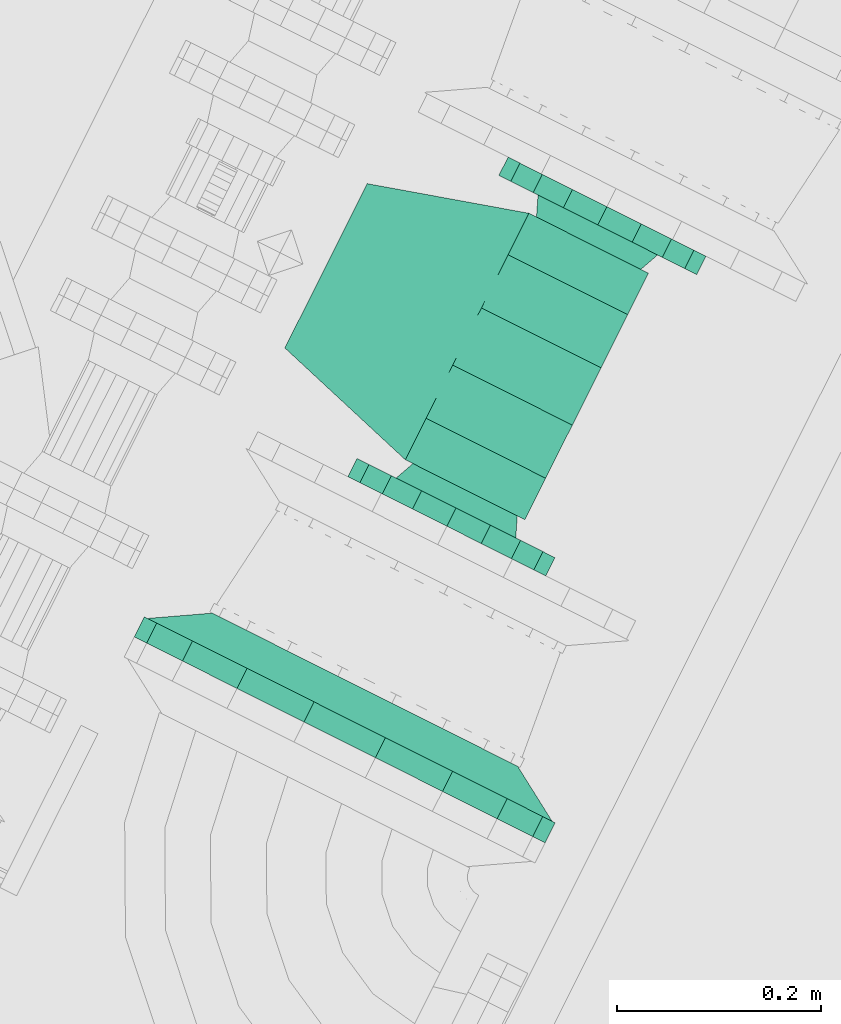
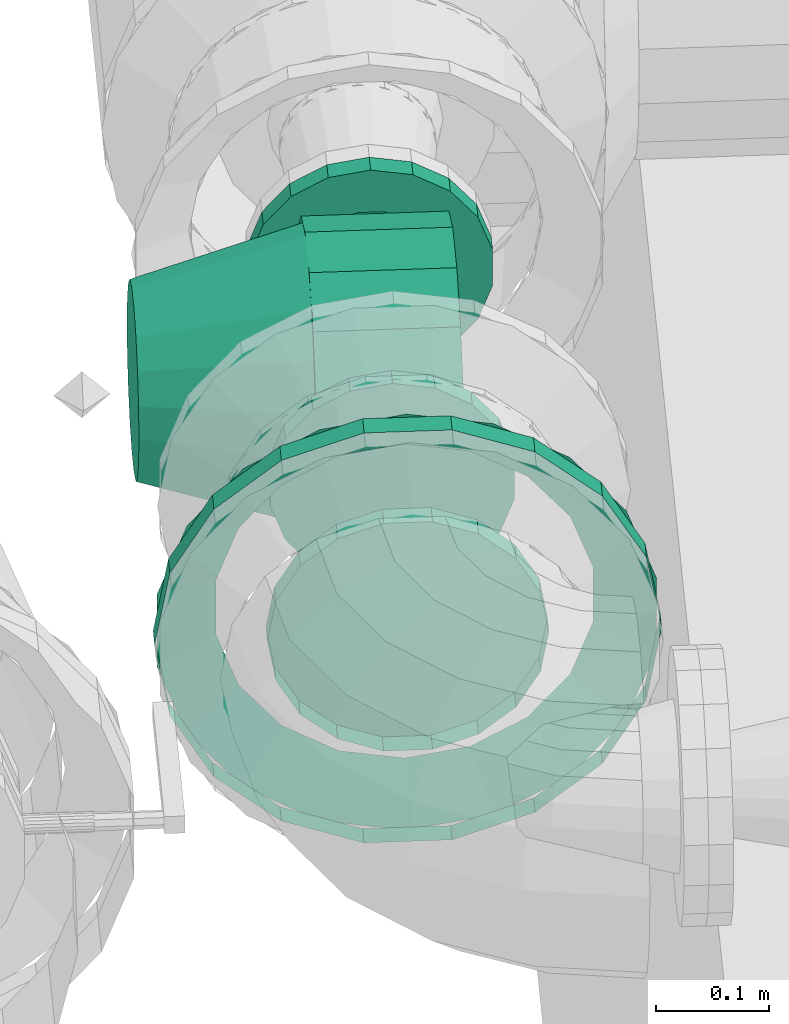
# One storey, part 73 of 206: 1 flow fitting, 1 flow moving device.
"""IFC2X3 building model written with IfcOpenShell, lengths in metres."""

from ifc_helpers import new_model, si_unit, derived_unit, direction, frame, origin, place, context, subcontext, project, spatial, face_set, surface_model, source, transform, mapped, material, type_object, type_shapes, element, save


model = new_model("IFC2X3")

# Units and contexts
model_context = context("Model", 3, precision=5.2338327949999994e-05, world=origin(), true_north=direction((0.0, 1.0)))
body_context = subcontext(model_context, "Body", "Model", "MODEL_VIEW")
ifc_project = project(units=[si_unit("LENGTHUNIT", "METRE"), si_unit("AREAUNIT", "SQUARE_METRE"), si_unit("VOLUMEUNIT", "CUBIC_METRE"), si_unit("MASSUNIT", "GRAM", prefix="KILO"), si_unit("PLANEANGLEUNIT", "RADIAN"), derived_unit("THERMALTRANSMITTANCEUNIT", [(si_unit("MASSUNIT", "GRAM", prefix="KILO"), 1), (si_unit("THERMODYNAMICTEMPERATUREUNIT", "KELVIN"), -1), (si_unit("TIMEUNIT", "SECOND"), -3)])], contexts=[model_context])

# Site, building, storey
site_placement = place(None, frame((0.0, 0.0, 0.0), z_axis=(0.0, 0.0, 1.0), x_axis=(0.8939966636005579, -0.4480736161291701, 0.0)))
site = spatial("IfcSite", under=ifc_project, at=site_placement, Name="Default", CompositionType="ELEMENT")
building_placement = place(site_placement, origin())
building = spatial("IfcBuilding", under=site, at=building_placement, CompositionType="ELEMENT")
storey_placement = place(building_placement, origin())
storey = spatial("IfcBuildingStorey", under=building, at=storey_placement, Name="Erdgeschoss", CompositionType="ELEMENT", Elevation=0.0)

# Flow fitting
ifc_material = material(Name="IfcSurfaceStyle #1741")
distribution_element_type_1 = type_object("IfcDistributionElementType", Name="Flansch 340880:Flansch 340880", material=ifc_material)
shared_shape_1 = source(origin(), body_context, "Body", "SurfaceModel", [
    surface_model("IfcFaceBasedSurfaceModel", [(25.314855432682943, 5.640961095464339, 2.3539999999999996), (25.322393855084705, 5.640961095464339, 2.3967525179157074), (25.322393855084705, 5.662961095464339, 2.3967525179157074), (25.314855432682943, 5.662961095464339, 2.3539999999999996), (25.344099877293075, 5.640961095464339, 2.434348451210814), (25.344099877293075, 5.662961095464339, 2.434348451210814), (25.377355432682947, 5.640961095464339, 2.462253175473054), (25.377355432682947, 5.662961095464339, 2.462253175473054), (25.418149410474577, 5.640961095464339, 2.4771009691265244), (25.418149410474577, 5.662961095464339, 2.4771009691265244), (25.461561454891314, 5.640961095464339, 2.4771009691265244), (25.461561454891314, 5.662961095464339, 2.4771009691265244), (25.502355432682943, 5.640961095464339, 2.4622531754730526), (25.502355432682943, 5.662961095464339, 2.4622531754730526), (25.535610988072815, 5.640961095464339, 2.4343484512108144), (25.535610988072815, 5.662961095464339, 2.4343484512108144), (25.557317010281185, 5.640961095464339, 2.396752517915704), (25.557317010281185, 5.662961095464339, 2.396752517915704), (25.564855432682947, 5.640961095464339, 2.3539999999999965), (25.564855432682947, 5.662961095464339, 2.3539999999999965), (25.557317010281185, 5.640961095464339, 2.3112474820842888), (25.557317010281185, 5.662961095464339, 2.3112474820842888), (25.535610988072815, 5.640961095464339, 2.273651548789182), (25.535610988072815, 5.662961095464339, 2.273651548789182), (25.502355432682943, 5.640961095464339, 2.2457468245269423), (25.502355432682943, 5.662961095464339, 2.2457468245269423), (25.461561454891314, 5.640961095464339, 2.230899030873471), (25.461561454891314, 5.662961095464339, 2.230899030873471), (25.418149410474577, 5.640961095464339, 2.2308990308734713), (25.418149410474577, 5.662961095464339, 2.2308990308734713), (25.377355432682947, 5.640961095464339, 2.2457468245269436), (25.377355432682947, 5.662961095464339, 2.2457468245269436), (25.344099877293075, 5.640961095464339, 2.2736515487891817), (25.344099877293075, 5.662961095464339, 2.2736515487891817), (25.322393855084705, 5.640961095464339, 2.311247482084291), (25.322393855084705, 5.662961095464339, 2.311247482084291), (25.439855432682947, 5.662961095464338, 2.353999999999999), (25.439855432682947, 5.662961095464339, 2.4319999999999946), (25.46653300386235, 5.662961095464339, 2.4272960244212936), (25.463745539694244, 5.695961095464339, 2.419637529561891), (25.43985543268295, 5.69596109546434, 2.4238499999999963), (25.489992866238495, 5.662961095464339, 2.4137514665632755), (25.484754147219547, 5.695961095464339, 2.407508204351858), (25.507405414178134, 5.662961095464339, 2.392999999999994), (25.500347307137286, 5.695961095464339, 2.3889249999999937), (25.516670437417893, 5.662961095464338, 2.367544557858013), (25.50864425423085, 5.695961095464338, 2.3661293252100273), (25.516670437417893, 5.662961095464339, 2.340455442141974), (25.50864425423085, 5.695961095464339, 2.3418706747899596), (25.507405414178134, 5.662961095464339, 2.314999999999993), (25.500347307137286, 5.695961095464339, 2.3190749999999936), (25.48999286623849, 5.662961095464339, 2.2942485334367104), (25.484754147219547, 5.695961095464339, 2.300491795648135), (25.466533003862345, 5.662961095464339, 2.280703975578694), (25.46374553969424, 5.695961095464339, 2.2883624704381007), (25.439855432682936, 5.662961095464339, 2.2759999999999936), (25.43985543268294, 5.695961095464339, 2.2841499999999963), (25.41317786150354, 5.662961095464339, 2.2807039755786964), (25.415965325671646, 5.695961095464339, 2.288362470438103), (25.38971799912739, 5.662961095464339, 2.294248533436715), (25.39495671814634, 5.695961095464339, 2.300491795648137), (25.372305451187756, 5.662961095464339, 2.3149999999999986), (25.379363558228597, 5.695961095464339, 2.319074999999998), (25.36304042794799, 5.662961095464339, 2.3404554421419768), (25.37106661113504, 5.695961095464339, 2.3418706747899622), (25.36304042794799, 5.662961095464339, 2.367544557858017), (25.371066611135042, 5.695961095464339, 2.3661293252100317), (25.372305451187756, 5.662961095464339, 2.392999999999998), (25.379363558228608, 5.695961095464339, 2.388924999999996), (25.3897179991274, 5.662961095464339, 2.4137514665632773), (25.394956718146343, 5.695961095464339, 2.4075082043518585), (25.41317786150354, 5.662961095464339, 2.4272960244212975), (25.41596532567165, 5.695961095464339, 2.4196375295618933), (25.214855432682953, 5.640961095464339, 2.354000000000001), (25.22842459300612, 5.640961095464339, 2.4309545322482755), (25.22842459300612, 5.662961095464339, 2.4309545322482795), (25.214855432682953, 5.662961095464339, 2.354000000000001), (25.26749543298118, 5.640961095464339, 2.49862721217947), (25.26749543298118, 5.662961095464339, 2.498627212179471), (25.327355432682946, 5.640961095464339, 2.548855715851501), (25.327355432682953, 5.662961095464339, 2.5488557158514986), (25.400784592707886, 5.640961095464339, 2.5755817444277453), (25.40078459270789, 5.662961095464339, 2.575581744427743), (25.478926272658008, 5.640961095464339, 2.5755817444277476), (25.47892627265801, 5.662961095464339, 2.5755817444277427), (25.552355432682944, 5.640961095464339, 2.5488557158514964), (25.552355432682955, 5.662961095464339, 2.548855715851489), (25.612215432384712, 5.640961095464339, 2.498627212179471), (25.61221543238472, 5.662961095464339, 2.498627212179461), (25.651286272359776, 5.640961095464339, 2.4309545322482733), (25.65128627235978, 5.662961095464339, 2.4309545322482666), (25.664855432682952, 5.640961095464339, 2.353999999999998), (25.664855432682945, 5.662961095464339, 2.353999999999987), (25.651286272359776, 5.640961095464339, 2.277045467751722), (25.65128627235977, 5.662961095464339, 2.2770454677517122), (25.612215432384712, 5.640961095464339, 2.209372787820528), (25.61221543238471, 5.662961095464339, 2.209372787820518), (25.552355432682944, 5.640961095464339, 2.159144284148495), (25.552355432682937, 5.662961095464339, 2.159144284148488), (25.478926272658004, 5.640961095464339, 2.132418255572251), (25.478926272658, 5.662961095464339, 2.132418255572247), (25.400784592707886, 5.640961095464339, 2.13241825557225), (25.40078459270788, 5.662961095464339, 2.1324182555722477), (25.327355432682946, 5.640961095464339, 2.1591442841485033), (25.327355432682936, 5.662961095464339, 2.1591442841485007), (25.267495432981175, 5.640961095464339, 2.2093727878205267), (25.26749543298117, 5.662961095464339, 2.209372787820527), (25.22842459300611, 5.640961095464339, 2.2770454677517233), (25.22842459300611, 5.662961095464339, 2.277045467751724), (25.439855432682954, 5.662961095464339, 2.578999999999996), (25.516809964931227, 5.662961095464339, 2.5654308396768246), (25.497947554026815, 5.695961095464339, 2.5136067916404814), (25.43985543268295, 5.695961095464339, 2.5238499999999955), (25.584482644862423, 5.662961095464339, 2.52635999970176), (25.549032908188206, 5.695961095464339, 2.484112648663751), (25.634711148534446, 5.662961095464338, 2.466499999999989), (25.586949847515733, 5.695961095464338, 2.438924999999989), (25.66143717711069, 5.662961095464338, 2.393070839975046), (25.607125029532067, 5.695961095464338, 2.383494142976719), (25.66143717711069, 5.662961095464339, 2.314929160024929), (25.607125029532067, 5.695961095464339, 2.3245058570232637), (25.63471114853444, 5.662961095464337, 2.2414999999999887), (25.58694984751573, 5.6959610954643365, 2.269074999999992), (25.58448264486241, 5.662961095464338, 2.1816400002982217), (25.5490329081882, 5.695961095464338, 2.2238873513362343), (25.516809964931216, 5.662961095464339, 2.1425691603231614), (25.497947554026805, 5.695961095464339, 2.1943932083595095), (25.439855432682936, 5.662961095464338, 2.128999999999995), (25.439855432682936, 5.695961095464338, 2.184149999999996), (25.362900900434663, 5.662961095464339, 2.142569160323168), (25.38176331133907, 5.695961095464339, 2.1943932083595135), (25.295228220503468, 5.662961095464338, 2.181640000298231), (25.330677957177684, 5.695961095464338, 2.2238873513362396), (25.244999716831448, 5.662961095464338, 2.241500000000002), (25.292761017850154, 5.695961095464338, 2.2690750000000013), (25.218273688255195, 5.66296109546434, 2.314929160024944), (25.272585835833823, 5.69596109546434, 2.3245058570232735), (25.218273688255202, 5.662961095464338, 2.393070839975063), (25.272585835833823, 5.695961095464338, 2.38349414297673), (25.24499971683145, 5.662961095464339, 2.4665000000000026), (25.292761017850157, 5.695961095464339, 2.4389249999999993), (25.295228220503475, 5.662961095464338, 2.5263599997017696), (25.33067795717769, 5.695961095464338, 2.4841126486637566), (25.362900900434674, 5.662961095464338, 2.565430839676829), (25.381763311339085, 5.695961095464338, 2.5136067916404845)], [face_set([[[0, 1, 2, 3]], [[1, 4, 5, 2]], [[4, 6, 7, 5]], [[6, 8, 9, 7]], [[8, 10, 11, 9]], [[10, 12, 13, 11]], [[12, 14, 15, 13]], [[14, 16, 17, 15]], [[16, 18, 19, 17]], [[18, 20, 21, 19]], [[20, 22, 23, 21]], [[22, 24, 25, 23]], [[24, 26, 27, 25]], [[26, 28, 29, 27]], [[28, 30, 31, 29]], [[30, 32, 33, 31]], [[32, 34, 35, 33]], [[34, 0, 3, 35]], [[36, 35, 3]], [[36, 33, 35]], [[36, 31, 33]], [[36, 29, 31]], [[36, 27, 29]], [[36, 25, 27]], [[36, 23, 25]], [[36, 21, 23]], [[36, 19, 21]], [[36, 17, 19]], [[36, 15, 17]], [[36, 13, 15]], [[36, 11, 13]], [[36, 9, 11]], [[36, 7, 9]], [[36, 5, 7]], [[36, 2, 5]], [[36, 3, 2]], [[37, 38, 39, 40]], [[38, 41, 42, 39]], [[41, 43, 44, 42]], [[43, 45, 46, 44]], [[45, 47, 48, 46]], [[47, 49, 50, 48]], [[49, 51, 52, 50]], [[51, 53, 54, 52]], [[53, 55, 56, 54]], [[55, 57, 58, 56]], [[57, 59, 60, 58]], [[59, 61, 62, 60]], [[61, 63, 64, 62]], [[63, 65, 66, 64]], [[65, 67, 68, 66]], [[67, 69, 70, 68]], [[69, 71, 72, 70]], [[71, 37, 40, 72]], [[73, 74, 75, 76]], [[74, 77, 78, 75]], [[77, 79, 80, 78]], [[79, 81, 82, 80]], [[81, 83, 84, 82]], [[83, 85, 86, 84]], [[85, 87, 88, 86]], [[87, 89, 90, 88]], [[89, 91, 92, 90]], [[91, 93, 94, 92]], [[93, 95, 96, 94]], [[95, 97, 98, 96]], [[97, 99, 100, 98]], [[99, 101, 102, 100]], [[101, 103, 104, 102]], [[103, 105, 106, 104]], [[105, 107, 108, 106]], [[107, 73, 76, 108]], [[109, 110, 111, 112]], [[110, 113, 114, 111]], [[113, 115, 116, 114]], [[115, 117, 118, 116]], [[117, 119, 120, 118]], [[119, 121, 122, 120]], [[121, 123, 124, 122]], [[123, 125, 126, 124]], [[125, 127, 128, 126]], [[127, 129, 130, 128]], [[129, 131, 132, 130]], [[131, 133, 134, 132]], [[133, 135, 136, 134]], [[135, 137, 138, 136]], [[137, 139, 140, 138]], [[139, 141, 142, 140]], [[141, 143, 144, 142]], [[143, 109, 112, 144]]])]),
])
type_shapes(distribution_element_type_1, [shared_shape_1])
flow_fitting_placement = place(storey_placement, origin())
element("IfcFlowFitting", 1, at=flow_fitting_placement, inside=storey, type_object=distribution_element_type_1, material=ifc_material, Name="Flansch", ObjectType="Flansch", context=body_context, shape_type="MappedRepresentation", body=[
    mapped(shared_shape_1, transform((0.0, 0.0, 0.0), scale=1.0)),
])

# Flow moving device
distribution_element_type_2 = type_object("IfcDistributionElementType", Name="Inline-Pumpe 341037:Inline-Pumpe 341037", material=ifc_material)
shared_shape_2 = source(origin(), body_context, "Body", "SurfaceModel", [
    surface_model("IfcFaceBasedSurfaceModel", [(25.43985543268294, 6.22496109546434, 2.4639999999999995), (25.402233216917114, 6.22496109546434, 2.457366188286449), (25.402233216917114, 6.2049610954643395, 2.457366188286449), (25.43985543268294, 6.20496109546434, 2.4640000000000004), (25.369148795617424, 6.22496109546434, 2.4382648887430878), (25.369148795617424, 6.2049610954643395, 2.4382648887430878), (25.344592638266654, 6.22496109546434, 2.4089999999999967), (25.344592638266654, 6.2049610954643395, 2.4089999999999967), (25.3315265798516, 6.22496109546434, 2.373101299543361), (25.3315265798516, 6.2049610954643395, 2.373101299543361), (25.3315265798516, 6.22496109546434, 2.3348987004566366), (25.3315265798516, 6.2049610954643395, 2.3348987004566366), (25.344592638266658, 6.22496109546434, 2.298999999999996), (25.344592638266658, 6.2049610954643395, 2.298999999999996), (25.369148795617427, 6.22496109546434, 2.2697351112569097), (25.369148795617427, 6.2049610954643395, 2.2697351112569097), (25.40223321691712, 6.22496109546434, 2.2506338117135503), (25.40223321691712, 6.2049610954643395, 2.2506338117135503), (25.43985543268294, 6.22496109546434, 2.243999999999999), (25.43985543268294, 6.2049610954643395, 2.243999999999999), (25.477477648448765, 6.22496109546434, 2.25063381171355), (25.477477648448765, 6.2049610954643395, 2.25063381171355), (25.510562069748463, 6.22496109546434, 2.269735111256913), (25.510562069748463, 6.2049610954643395, 2.269735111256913), (25.535118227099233, 6.22496109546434, 2.2989999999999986), (25.535118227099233, 6.2049610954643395, 2.2989999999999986), (25.54818428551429, 6.22496109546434, 2.3348987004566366), (25.54818428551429, 6.2049610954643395, 2.3348987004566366), (25.54818428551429, 6.22496109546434, 2.373101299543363), (25.54818428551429, 6.2049610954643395, 2.373101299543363), (25.535118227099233, 6.22496109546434, 2.4090000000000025), (25.535118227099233, 6.2049610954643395, 2.4090000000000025), (25.510562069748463, 6.22496109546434, 2.43826488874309), (25.510562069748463, 6.2049610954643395, 2.43826488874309), (25.477477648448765, 6.22496109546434, 2.4573661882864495), (25.477477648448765, 6.2049610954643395, 2.4573661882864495), (25.43985543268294, 6.2049610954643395, 2.354), (25.43985543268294, 6.22496109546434, 2.354), (25.505355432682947, 6.2049610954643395, 2.354), (25.50140529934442, 6.2049610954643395, 2.376402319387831), (25.49355886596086, 6.184961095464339, 2.3735464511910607), (25.49700543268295, 6.184961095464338, 2.3539999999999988), (25.490031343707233, 6.204961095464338, 2.3961025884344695), (25.48363487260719, 6.184961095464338, 2.390735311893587), (25.472605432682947, 6.2049610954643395, 2.41072466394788), (25.468430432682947, 6.184961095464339, 2.4034933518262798), (25.451229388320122, 6.2049610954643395, 2.4185049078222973), (25.44977942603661, 6.184961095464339, 2.4102817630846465), (25.428481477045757, 6.2049610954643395, 2.418504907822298), (25.42993143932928, 6.184961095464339, 2.410281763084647), (25.407105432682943, 6.2049610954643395, 2.410724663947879), (25.411280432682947, 6.184961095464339, 2.4034933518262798), (25.389679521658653, 6.2049610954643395, 2.3961025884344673), (25.396075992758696, 6.184961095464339, 2.3907353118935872), (25.378305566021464, 6.2049610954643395, 2.3764023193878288), (25.38615199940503, 6.184961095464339, 2.3735464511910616), (25.374355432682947, 6.20496109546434, 2.3539999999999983), (25.38270543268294, 6.184961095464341, 2.353999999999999), (25.37830556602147, 6.204961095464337, 2.331597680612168), (25.38615199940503, 6.184961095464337, 2.3344535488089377), (25.389679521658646, 6.2049610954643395, 2.31189741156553), (25.396075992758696, 6.184961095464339, 2.317264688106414), (25.407105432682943, 6.2049610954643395, 2.2972753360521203), (25.41128043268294, 6.184961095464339, 2.304506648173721), (25.428481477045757, 6.2049610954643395, 2.2894950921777), (25.429931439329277, 6.184961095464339, 2.2977182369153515), (25.451229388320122, 6.2049610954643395, 2.2894950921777), (25.449779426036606, 6.184961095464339, 2.2977182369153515), (25.472605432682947, 6.2049610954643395, 2.2972753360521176), (25.468430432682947, 6.184961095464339, 2.304506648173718), (25.490031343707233, 6.2049610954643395, 2.311897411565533), (25.48363487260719, 6.184961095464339, 2.317264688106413), (25.501405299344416, 6.20496109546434, 2.331597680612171), (25.49355886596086, 6.184961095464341, 2.3344535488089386), (25.49700543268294, 5.914961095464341, 2.3539999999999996), (25.493558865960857, 5.914961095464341, 2.373546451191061), (25.501405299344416, 5.894961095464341, 2.376402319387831), (25.505355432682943, 5.894961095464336, 2.353999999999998), (25.483634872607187, 5.9149610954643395, 2.390735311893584), (25.490031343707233, 5.894961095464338, 2.3961025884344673), (25.46843043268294, 5.9149610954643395, 2.4034933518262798), (25.472605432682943, 5.894961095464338, 2.4107246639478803), (25.449779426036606, 5.9149610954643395, 2.410281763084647), (25.451229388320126, 5.894961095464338, 2.4185049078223), (25.429931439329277, 5.9149610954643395, 2.410281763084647), (25.428481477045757, 5.894961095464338, 2.4185049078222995), (25.411280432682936, 5.9149610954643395, 2.4034933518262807), (25.407105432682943, 5.894961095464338, 2.410724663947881), (25.396075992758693, 5.91496109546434, 2.3907353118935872), (25.389679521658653, 5.894961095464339, 2.39610258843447), (25.386151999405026, 5.9149610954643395, 2.373546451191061), (25.37830556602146, 5.894961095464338, 2.3764023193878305), (25.38270543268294, 5.9149610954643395, 2.3540000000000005), (25.374355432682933, 5.894961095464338, 2.354), (25.386151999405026, 5.914961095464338, 2.334453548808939), (25.37830556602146, 5.894961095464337, 2.33159768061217), (25.396075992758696, 5.9149610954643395, 2.3172646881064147), (25.389679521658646, 5.894961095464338, 2.311897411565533), (25.411280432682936, 5.91496109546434, 2.3045066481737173), (25.407105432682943, 5.894961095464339, 2.297275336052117), (25.42993143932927, 5.9149610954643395, 2.297718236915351), (25.428481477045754, 5.894961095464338, 2.2894950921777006), (25.449779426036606, 5.9149610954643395, 2.2977182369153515), (25.451229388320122, 5.894961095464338, 2.2894950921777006), (25.46843043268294, 5.9149610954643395, 2.3045066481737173), (25.472605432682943, 5.894961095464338, 2.297275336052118), (25.483634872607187, 5.9149610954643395, 2.317264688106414), (25.490031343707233, 5.894961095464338, 2.311897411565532), (25.49355886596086, 5.914961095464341, 2.3344535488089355), (25.501405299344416, 5.894961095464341, 2.331597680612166), (25.43985543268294, 5.894961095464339, 2.4640000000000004), (25.40223321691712, 5.894961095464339, 2.457366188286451), (25.40223321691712, 5.874961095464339, 2.457366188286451), (25.43985543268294, 5.874961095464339, 2.4640000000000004), (25.369148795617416, 5.894961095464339, 2.43826488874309), (25.369148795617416, 5.874961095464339, 2.43826488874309), (25.344592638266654, 5.894961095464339, 2.4090000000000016), (25.344592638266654, 5.874961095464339, 2.4090000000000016), (25.331526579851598, 5.894961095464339, 2.3731012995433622), (25.331526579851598, 5.874961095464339, 2.3731012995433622), (25.331526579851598, 5.894961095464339, 2.3348987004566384), (25.331526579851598, 5.874961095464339, 2.3348987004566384), (25.344592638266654, 5.894961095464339, 2.2990000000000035), (25.344592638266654, 5.874961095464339, 2.2990000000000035), (25.369148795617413, 5.894961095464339, 2.2697351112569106), (25.369148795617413, 5.874961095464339, 2.2697351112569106), (25.40223321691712, 5.894961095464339, 2.25063381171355), (25.40223321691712, 5.874961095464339, 2.25063381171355), (25.439855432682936, 5.894961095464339, 2.244), (25.439855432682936, 5.874961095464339, 2.244), (25.47747764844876, 5.894961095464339, 2.25063381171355), (25.47747764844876, 5.874961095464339, 2.25063381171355), (25.51056206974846, 5.894961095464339, 2.269735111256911), (25.51056206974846, 5.874961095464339, 2.269735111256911), (25.535118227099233, 5.894961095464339, 2.2989999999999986), (25.535118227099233, 5.874961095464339, 2.2989999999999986), (25.548184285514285, 5.894961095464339, 2.3348987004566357), (25.548184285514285, 5.874961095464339, 2.3348987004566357), (25.548184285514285, 5.894961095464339, 2.373101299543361), (25.548184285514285, 5.874961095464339, 2.373101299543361), (25.53511822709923, 5.894961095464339, 2.4089999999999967), (25.53511822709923, 5.874961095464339, 2.4089999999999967), (25.510562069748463, 5.894961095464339, 2.438264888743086), (25.510562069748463, 5.874961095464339, 2.438264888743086), (25.477477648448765, 5.894961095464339, 2.457366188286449), (25.477477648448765, 5.874961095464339, 2.457366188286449), (25.43985543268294, 5.894961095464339, 2.354), (25.43985543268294, 5.874961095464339, 2.354), (25.37435543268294, 6.184961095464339, 2.419500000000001), (25.37435543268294, 6.184961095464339, 2.2885000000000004), (25.505355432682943, 6.184961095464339, 2.288499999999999), (25.505355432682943, 6.184961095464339, 2.4194999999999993), (25.37435543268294, 5.9149610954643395, 2.2885000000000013), (25.37435543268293, 5.960383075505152, 2.245269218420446), (25.505355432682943, 5.960383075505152, 2.245269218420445), (25.505355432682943, 5.9149610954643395, 2.2885), (25.374355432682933, 6.018608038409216, 2.2219902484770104), (25.50535543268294, 6.018608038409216, 2.221990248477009), (25.374355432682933, 6.081314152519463, 2.2219902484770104), (25.50535543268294, 6.081314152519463, 2.221990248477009), (25.374355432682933, 6.139539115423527, 2.2452692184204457), (25.50535543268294, 6.139539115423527, 2.2452692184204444), (25.37435543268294, 5.9149610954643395, 2.419500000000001), (25.505355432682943, 5.9149610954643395, 2.4194999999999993), (25.374355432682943, 6.139539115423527, 2.4627307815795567), (25.505355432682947, 6.139539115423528, 2.4627307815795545), (25.374355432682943, 6.081314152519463, 2.48600975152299), (25.505355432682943, 6.081314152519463, 2.486009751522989), (25.374355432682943, 6.018608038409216, 2.48600975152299), (25.505355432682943, 6.0186080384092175, 2.486009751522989), (25.374355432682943, 5.960383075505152, 2.4627307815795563), (25.505355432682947, 5.960383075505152, 2.462730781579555), (25.37435543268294, 5.9149610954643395, 2.3539999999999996), (25.374355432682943, 5.9231025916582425, 2.4001727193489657), (25.21985543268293, 5.9653887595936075, 2.3847818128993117), (25.219855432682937, 5.959961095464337, 2.354000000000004), (25.374355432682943, 5.946545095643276, 2.4407763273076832), (25.219855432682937, 5.981017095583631, 2.411850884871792), (25.374355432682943, 5.9824610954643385, 2.470913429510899), (25.219855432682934, 6.004961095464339, 2.431942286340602), (25.374355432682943, 6.026518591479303, 2.486949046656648), (25.21985543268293, 6.0343327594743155, 2.4426326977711), (25.374355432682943, 6.073403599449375, 2.4869490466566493), (25.21985543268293, 6.065589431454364, 2.442632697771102), (25.374355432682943, 6.117461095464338, 2.470913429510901), (25.219855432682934, 6.094961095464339, 2.4319422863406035), (25.374355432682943, 6.1533770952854, 2.4407763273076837), (25.219855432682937, 6.118905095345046, 2.4118508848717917), (25.374355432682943, 6.176819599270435, 2.4001727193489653), (25.21985543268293, 6.134533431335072, 2.3847818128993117), (25.37435543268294, 6.184961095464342, 2.3540000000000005), (25.219855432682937, 6.139961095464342, 2.354000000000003), (25.37435543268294, 6.176819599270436, 2.3078272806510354), (25.219855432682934, 6.134533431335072, 2.323218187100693), (25.37435543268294, 6.1533770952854, 2.267223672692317), (25.21985543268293, 6.118905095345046, 2.2961491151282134), (25.37435543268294, 6.117461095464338, 2.2370865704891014), (25.21985543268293, 6.094961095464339, 2.2760577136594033), (25.37435543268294, 6.073403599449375, 2.221050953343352), (25.219855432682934, 6.065589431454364, 2.2653673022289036), (25.37435543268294, 6.026518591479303, 2.221050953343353), (25.219855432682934, 6.0343327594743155, 2.265367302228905), (25.37435543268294, 5.9824610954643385, 2.237086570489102), (25.21985543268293, 6.004961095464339, 2.2760577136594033), (25.37435543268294, 5.946545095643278, 2.2672236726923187), (25.21985543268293, 5.981017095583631, 2.2961491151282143), (25.37435543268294, 5.923102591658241, 2.3078272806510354), (25.219855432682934, 5.9653887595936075, 2.323218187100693), (25.219855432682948, 6.049961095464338, 2.354000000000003)], [face_set([[[0, 1, 2, 3]], [[1, 4, 5, 2]], [[4, 6, 7, 5]], [[6, 8, 9, 7]], [[8, 10, 11, 9]], [[10, 12, 13, 11]], [[12, 14, 15, 13]], [[14, 16, 17, 15]], [[16, 18, 19, 17]], [[18, 20, 21, 19]], [[20, 22, 23, 21]], [[22, 24, 25, 23]], [[24, 26, 27, 25]], [[26, 28, 29, 27]], [[28, 30, 31, 29]], [[30, 32, 33, 31]], [[32, 34, 35, 33]], [[34, 0, 3, 35]], [[36, 35, 3]], [[36, 33, 35]], [[36, 31, 33]], [[36, 29, 31]], [[36, 27, 29]], [[36, 25, 27]], [[36, 23, 25]], [[36, 21, 23]], [[36, 19, 21]], [[36, 17, 19]], [[36, 15, 17]], [[36, 13, 15]], [[36, 11, 13]], [[36, 9, 11]], [[36, 7, 9]], [[36, 5, 7]], [[36, 2, 5]], [[36, 3, 2]], [[37, 1, 0]], [[37, 4, 1]], [[37, 6, 4]], [[37, 8, 6]], [[37, 10, 8]], [[37, 12, 10]], [[37, 14, 12]], [[37, 16, 14]], [[37, 18, 16]], [[37, 20, 18]], [[37, 22, 20]], [[37, 24, 22]], [[37, 26, 24]], [[37, 28, 26]], [[37, 30, 28]], [[37, 32, 30]], [[37, 34, 32]], [[37, 0, 34]], [[38, 39, 40, 41]], [[39, 42, 43, 40]], [[42, 44, 45, 43]], [[44, 46, 47, 45]], [[46, 48, 49, 47]], [[48, 50, 51, 49]], [[50, 52, 53, 51]], [[52, 54, 55, 53]], [[54, 56, 57, 55]], [[56, 58, 59, 57]], [[58, 60, 61, 59]], [[60, 62, 63, 61]], [[62, 64, 65, 63]], [[64, 66, 67, 65]], [[66, 68, 69, 67]], [[68, 70, 71, 69]], [[70, 72, 73, 71]], [[72, 38, 41, 73]], [[74, 75, 76, 77]], [[75, 78, 79, 76]], [[78, 80, 81, 79]], [[80, 82, 83, 81]], [[82, 84, 85, 83]], [[84, 86, 87, 85]], [[86, 88, 89, 87]], [[88, 90, 91, 89]], [[90, 92, 93, 91]], [[92, 94, 95, 93]], [[94, 96, 97, 95]], [[96, 98, 99, 97]], [[98, 100, 101, 99]], [[100, 102, 103, 101]], [[102, 104, 105, 103]], [[104, 106, 107, 105]], [[106, 108, 109, 107]], [[108, 74, 77, 109]], [[110, 111, 112, 113]], [[111, 114, 115, 112]], [[114, 116, 117, 115]], [[116, 118, 119, 117]], [[118, 120, 121, 119]], [[120, 122, 123, 121]], [[122, 124, 125, 123]], [[124, 126, 127, 125]], [[126, 128, 129, 127]], [[128, 130, 131, 129]], [[130, 132, 133, 131]], [[132, 134, 135, 133]], [[134, 136, 137, 135]], [[136, 138, 139, 137]], [[138, 140, 141, 139]], [[140, 142, 143, 141]], [[142, 144, 145, 143]], [[144, 110, 113, 145]], [[146, 111, 110]], [[146, 114, 111]], [[146, 116, 114]], [[146, 118, 116]], [[146, 120, 118]], [[146, 122, 120]], [[146, 124, 122]], [[146, 126, 124]], [[146, 128, 126]], [[146, 130, 128]], [[146, 132, 130]], [[146, 134, 132]], [[146, 136, 134]], [[146, 138, 136]], [[146, 140, 138]], [[146, 142, 140]], [[146, 144, 142]], [[146, 110, 144]], [[147, 145, 113]], [[147, 143, 145]], [[147, 141, 143]], [[147, 139, 141]], [[147, 137, 139]], [[147, 135, 137]], [[147, 133, 135]], [[147, 131, 133]], [[147, 129, 131]], [[147, 127, 129]], [[147, 125, 127]], [[147, 123, 125]], [[147, 121, 123]], [[147, 119, 121]], [[147, 117, 119]], [[147, 115, 117]], [[147, 112, 115]], [[147, 113, 112]], [[148, 149, 150, 151]], [[152, 153, 154, 155]], [[153, 156, 157, 154]], [[156, 158, 159, 157]], [[158, 160, 161, 159]], [[160, 149, 150, 161]], [[152, 162, 163, 155]], [[148, 164, 165, 151]], [[164, 166, 167, 165]], [[166, 168, 169, 167]], [[168, 170, 171, 169]], [[170, 162, 163, 171]], [[161, 150, 151]], [[159, 161, 151]], [[157, 159, 151]], [[154, 157, 151]], [[155, 154, 151]], [[163, 155, 151]], [[171, 163, 151]], [[169, 171, 151]], [[167, 169, 151]], [[165, 167, 151]], [[148, 149, 160]], [[148, 160, 158]], [[148, 158, 156]], [[148, 156, 153]], [[148, 153, 152]], [[148, 152, 162]], [[148, 162, 170]], [[148, 170, 168]], [[148, 168, 166]], [[148, 166, 164]], [[172, 173, 174, 175]], [[173, 176, 177, 174]], [[176, 178, 179, 177]], [[178, 180, 181, 179]], [[180, 182, 183, 181]], [[182, 184, 185, 183]], [[184, 186, 187, 185]], [[186, 188, 189, 187]], [[188, 190, 191, 189]], [[190, 192, 193, 191]], [[192, 194, 195, 193]], [[194, 196, 197, 195]], [[196, 198, 199, 197]], [[198, 200, 201, 199]], [[200, 202, 203, 201]], [[202, 204, 205, 203]], [[204, 206, 207, 205]], [[206, 172, 175, 207]], [[208, 207, 175]], [[208, 205, 207]], [[208, 203, 205]], [[208, 201, 203]], [[208, 199, 201]], [[208, 197, 199]], [[208, 195, 197]], [[208, 193, 195]], [[208, 191, 193]], [[208, 189, 191]], [[208, 187, 189]], [[208, 185, 187]], [[208, 183, 185]], [[208, 181, 183]], [[208, 179, 181]], [[208, 177, 179]], [[208, 174, 177]], [[208, 175, 174]]])]),
])
type_shapes(distribution_element_type_2, [shared_shape_2])
flow_moving_device_placement = place(storey_placement, origin())
element("IfcFlowMovingDevice", 2, at=flow_moving_device_placement, inside=storey, type_object=distribution_element_type_2, material=ifc_material, Name="Inline-Pumpe", ObjectType="Inline-Pumpe", context=body_context, shape_type="MappedRepresentation", body=[
    mapped(shared_shape_2, transform((0.0, 0.0, 0.0), scale=1.0)),
])

save(model, "model.ifc")
